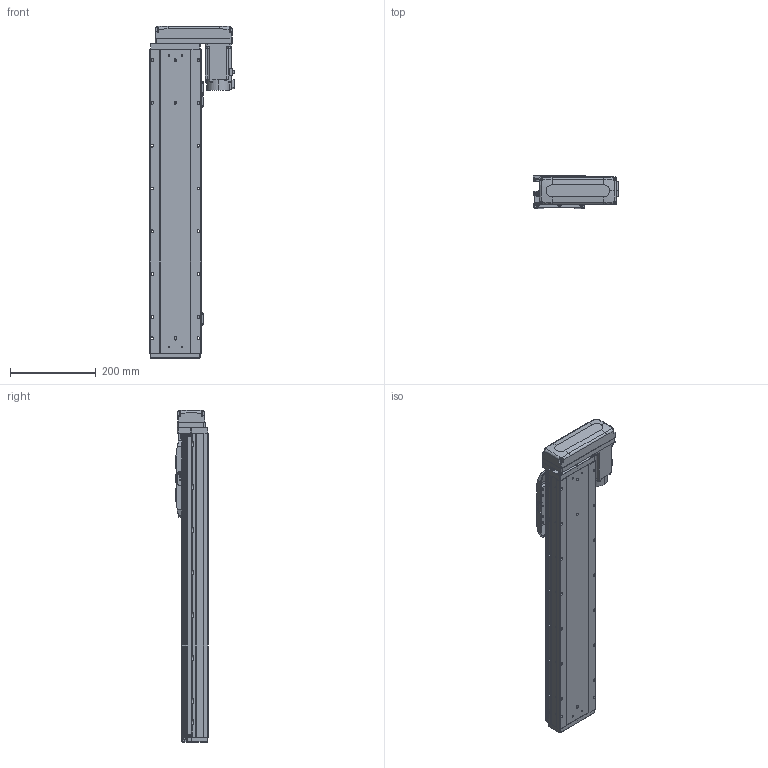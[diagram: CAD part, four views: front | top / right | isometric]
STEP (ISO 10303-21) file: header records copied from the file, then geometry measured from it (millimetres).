
FILE_DESCRIPTION (( 'STEP AP203' ), '1' );
FILE_NAME ('GTH12-500-BL-M40-C4.step', '2023-07-04T10:40:51', ( '微软用户' ), ( '微软中国' ), 'SwSTEP 2.0', 'SolidWorks 2020', '' );
FILE_SCHEMA (( 'CONFIG_CONTROL_DESIGN' ));
Length unit declared in the file: millimetre
Products named in the file (18): GTH120-006; GTH80-028; GTH120-027-1_GTH120-027-2; GTH120-004; GTH50-023; GTH12-500-BL-M40-C4; GTH120-013; GTH50-024; GBT 70.1-M3℅6; GBT96.1-2002 3×0.8; GBT 70.1-M5×16; BTH-M3X5X6; GTH120-001_500; GBT 70.3-M3℅8; hg-kn43j_-s100_; GTH120-003; GTH80-022; CTHA86-033_M40B
Assembly tree (59 placements, depth 2):
  GTH12-500-BL-M40-C4
    GTH120-001_500
    GTH120-003
    GTH120-006
    GTH120-004
    GTH120-013
    GBT 70.1-M3℅6  x14
    GBT 70.1-M5×16  x10
    GBT 70.3-M3℅8  x4
    GTH80-022
    GTH80-028  x2
    GTH50-023  x3
    GTH50-024  x3
    GBT96.1-2002 3×0.8  x6
    BTH-M3X5X6  x8
    hg-kn43j_-s100_
    CTHA86-033_M40B
    GTH120-027-1_GTH120-027-2
Bounding box: 199.8 x 76 x 775.5 mm (x, y, z)
Volume: 5908079.3 mm3; surface area: 574644.7 mm2
Topology: 61 solids, 61 shells, 2428 faces, 5655 edges, 3469 vertices
Faces by surface type: plane 1254, cylinder 698, cone 288, torus 174, sphere 8, bspline 6
Entity records: 45097 total; most frequent: CARTESIAN_POINT 7638, DIRECTION 7455, ORIENTED_EDGE 6920, EDGE_CURVE 3460, AXIS2_PLACEMENT_3D 2607, VECTOR 2241, LINE 2241, VERTEX_POINT 2190
